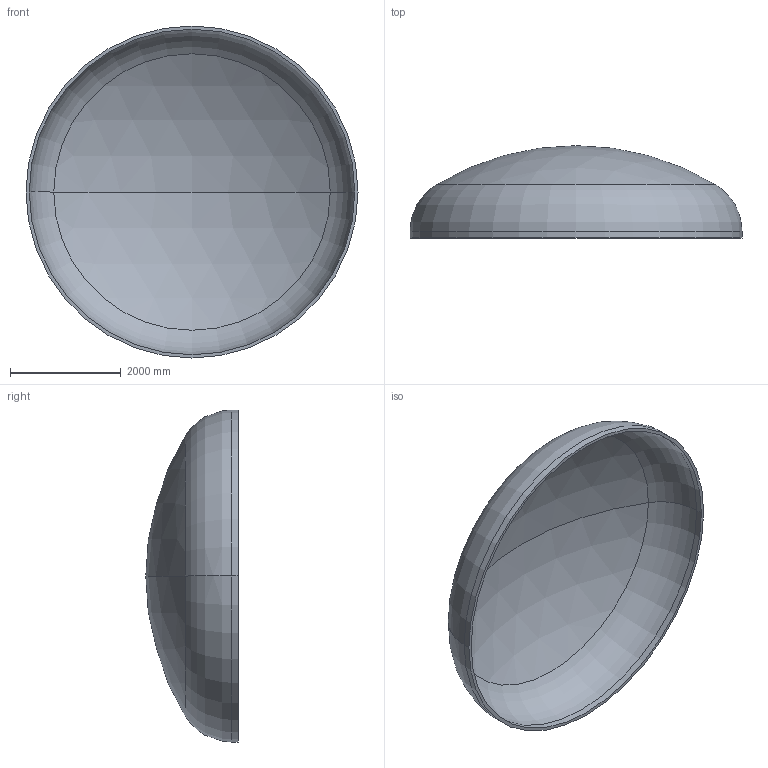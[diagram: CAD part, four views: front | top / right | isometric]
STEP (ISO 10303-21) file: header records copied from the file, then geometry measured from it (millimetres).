
FILE_DESCRIPTION (( 'STEP AP203' ), '1' );
FILE_NAME ('DIN 28013 Korbbogenform_-_Boden DIN 28013 - 6000 x 120 - I - s=58.step', '2016-07-04T10:37:37', ( '' ), ( '' ), 'SwSTEP 2.0', 'SolidWorks 2013', '' );
FILE_SCHEMA (( 'CONFIG_CONTROL_DESIGN' ));
Length unit declared in the file: millimetre
Products named in the file (1): DIN 28013 Korbbogenform_-_Boden DIN 28013 - 6000 x 120 - I - s=58
Bounding box: 6000 x 1669.32 x 6000 mm (x, y, z)
Volume: 2372804796.6 mm3; surface area: 82910575.3 mm2
Topology: 1 solids, 1 shells, 13 faces, 24 edges, 14 vertices
Faces by surface type: torus 4, cylinder 4, sphere 4, plane 1
Entity records: 407 total; most frequent: DIRECTION 72, CARTESIAN_POINT 52, ORIENTED_EDGE 48, AXIS2_PLACEMENT_3D 34, EDGE_CURVE 24, CIRCLE 20, EDGE_LOOP 14, VERTEX_POINT 14
